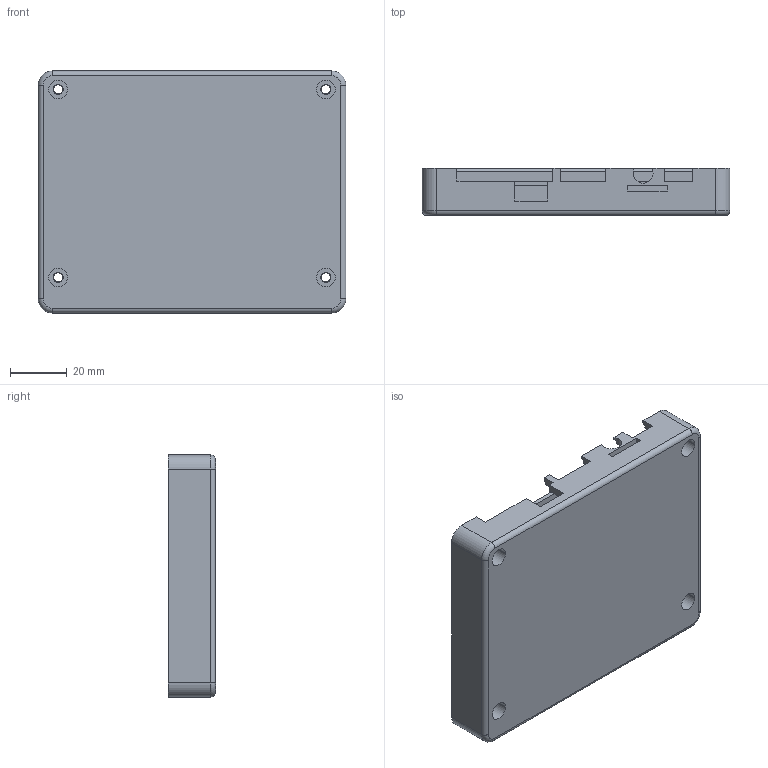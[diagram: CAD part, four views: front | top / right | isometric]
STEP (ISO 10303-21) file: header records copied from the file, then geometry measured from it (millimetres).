
FILE_DESCRIPTION((''),'2;1');
FILE_NAME('64001219_BASE_CC6_SBC_ENCLOSURE','2016-05-25T',('mlarsen'),(''),'PRO/ENGINEER BY PARAMETRIC TECHNOLOGY CORPORATION, 2015200','PRO/ENGINEER BY PARAMETRIC TECHNOLOGY CORPORATION, 2015200','');
FILE_SCHEMA(('CONFIG_CONTROL_DESIGN'));
Length unit declared in the file: millimetre
Products named in the file (1): 64001219_BASE_CC6_SBC_ENCLOSURE
Bounding box: 108 x 16.5 x 85 mm (x, y, z)
Volume: 36129.8 mm3; surface area: 44414 mm2
Topology: 1 solids, 2 shells, 184 faces, 516 edges, 340 vertices
Faces by surface type: cylinder 103, plane 71, torus 4, cone 4, bspline 2
Entity records: 6255 total; most frequent: CARTESIAN_POINT 1118, DIRECTION 1088, ORIENTED_EDGE 1032, EDGE_CURVE 516, AXIS2_PLACEMENT_3D 397, VERTEX_POINT 340, VECTOR 294, LINE 294
